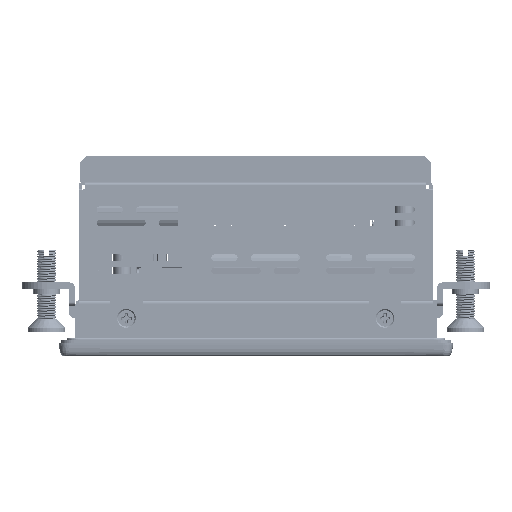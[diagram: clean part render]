
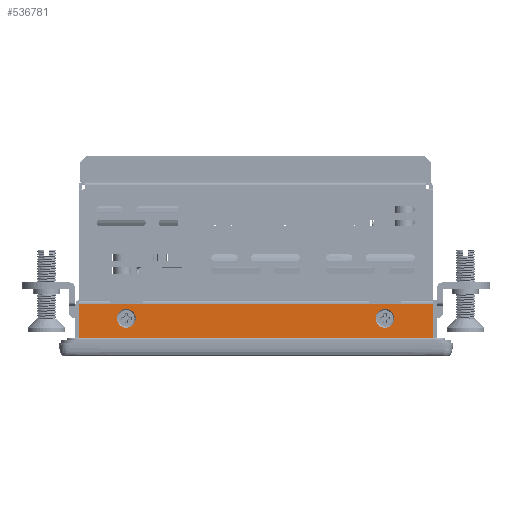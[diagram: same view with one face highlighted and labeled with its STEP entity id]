
A CAD part, left-side view. The second image highlights one B-rep face of the part: STEP entity #536781.
In plain terms, the highlighted planar face has unit normal (-1, 0, 0).
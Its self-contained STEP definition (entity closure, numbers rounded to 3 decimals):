
#158535=DIRECTION('',(0.,0.,-1.));
#158536=VECTOR('',#158535,0.2);
#158537=CARTESIAN_POINT('',(-91.,-44.3,15.5));
#158538=LINE('',#158537,#158536);
#162920=DIRECTION('',(0.,1.,0.));
#162921=VECTOR('',#162920,107.98);
#162922=CARTESIAN_POINT('',(-91.,-53.99,4.5));
#162923=LINE('',#162922,#162921);
#163066=DIRECTION('',(0.,0.,1.));
#163067=VECTOR('',#163066,0.2);
#163068=CARTESIAN_POINT('',(-91.,44.5,15.3));
#163069=LINE('',#163068,#163067);
#163111=DIRECTION('',(0.,-1.,0.));
#163112=VECTOR('',#163111,10.);
#163113=CARTESIAN_POINT('',(-91.,44.5,15.3));
#163114=LINE('',#163113,#163112);
#163123=CARTESIAN_POINT('',(-91.,39.5,11.));
#163124=DIRECTION('',(1.,0.,0.));
#163125=DIRECTION('',(0.,-1.,0.));
#163126=AXIS2_PLACEMENT_3D('',#163123,#163124,#163125);
#163128=CARTESIAN_POINT('',(-91.,39.5,11.));
#163129=DIRECTION('',(1.,0.,0.));
#163130=DIRECTION('',(0.,1.,0.));
#163131=AXIS2_PLACEMENT_3D('',#163128,#163129,#163130);
#163133=CARTESIAN_POINT('',(-91.,-39.3,11.));
#163134=DIRECTION('',(1.,0.,0.));
#163135=DIRECTION('',(0.,-1.,0.));
#163136=AXIS2_PLACEMENT_3D('',#163133,#163134,#163135);
#163138=CARTESIAN_POINT('',(-91.,-39.3,11.));
#163139=DIRECTION('',(1.,0.,0.));
#163140=DIRECTION('',(0.,1.,0.));
#163141=AXIS2_PLACEMENT_3D('',#163138,#163139,#163140);
#163143=DIRECTION('',(0.,0.,-1.));
#163144=VECTOR('',#163143,11.);
#163145=CARTESIAN_POINT('',(-91.,53.99,15.5));
#163146=LINE('',#163145,#163144);
#163147=DIRECTION('',(0.,0.,-1.));
#163148=VECTOR('',#163147,0.2);
#163149=CARTESIAN_POINT('',(-91.,34.5,15.5));
#163150=LINE('',#163149,#163148);
#163151=DIRECTION('',(0.,0.,1.));
#163152=VECTOR('',#163151,0.2);
#163153=CARTESIAN_POINT('',(-91.,-34.3,15.3));
#163154=LINE('',#163153,#163152);
#163207=DIRECTION('',(0.,-1.,0.));
#163208=VECTOR('',#163207,9.49);
#163209=CARTESIAN_POINT('',(-91.,53.99,15.5));
#163210=LINE('',#163209,#163208);
#163219=DIRECTION('',(0.,-1.,0.));
#163220=VECTOR('',#163219,68.8);
#163221=CARTESIAN_POINT('',(-91.,34.5,15.5));
#163222=LINE('',#163221,#163220);
#163256=DIRECTION('',(0.,-1.,0.));
#163257=VECTOR('',#163256,10.);
#163258=CARTESIAN_POINT('',(-91.,-34.3,15.3));
#163259=LINE('',#163258,#163257);
#163272=DIRECTION('',(0.,-1.,0.));
#163273=VECTOR('',#163272,9.69);
#163274=CARTESIAN_POINT('',(-91.,-44.3,15.5));
#163275=LINE('',#163274,#163273);
#163276=DIRECTION('',(0.,0.,1.));
#163277=VECTOR('',#163276,11.);
#163278=CARTESIAN_POINT('',(-91.,-53.99,4.5));
#163279=LINE('',#163278,#163277);
#215847=CARTESIAN_POINT('',(-91.,53.99,15.5));
#215849=VERTEX_POINT('',#215847);
#215857=CARTESIAN_POINT('',(-91.,34.5,15.5));
#215859=VERTEX_POINT('',#215857);
#215862=CARTESIAN_POINT('',(-91.,-34.3,15.5));
#215863=VERTEX_POINT('',#215862);
#215864=CARTESIAN_POINT('',(-91.,44.5,15.5));
#215866=VERTEX_POINT('',#215864);
#215869=CARTESIAN_POINT('',(-91.,-44.3,15.5));
#215871=VERTEX_POINT('',#215869);
#215874=CARTESIAN_POINT('',(-91.,-53.99,15.5));
#215875=VERTEX_POINT('',#215874);
#215882=CARTESIAN_POINT('',(-91.,34.5,15.3));
#215883=VERTEX_POINT('',#215882);
#216192=CARTESIAN_POINT('',(-91.,-34.3,15.3));
#216193=VERTEX_POINT('',#216192);
#216212=CARTESIAN_POINT('',(-91.,42.35,11.));
#216213=CARTESIAN_POINT('',(-91.,36.65,11.));
#216214=VERTEX_POINT('',#216212);
#216215=VERTEX_POINT('',#216213);
#216216=CARTESIAN_POINT('',(-91.,-44.3,15.3));
#216217=VERTEX_POINT('',#216216);
#216218=CARTESIAN_POINT('',(-91.,44.5,15.3));
#216219=VERTEX_POINT('',#216218);
#216220=CARTESIAN_POINT('',(-91.,-42.15,11.));
#216221=CARTESIAN_POINT('',(-91.,-36.45,11.));
#216222=VERTEX_POINT('',#216220);
#216223=VERTEX_POINT('',#216221);
#265678=CARTESIAN_POINT('',(-91.,-53.99,4.5));
#265679=CARTESIAN_POINT('',(-91.,53.99,4.5));
#265680=VERTEX_POINT('',#265678);
#265681=VERTEX_POINT('',#265679);
#536744=CARTESIAN_POINT('',(-91.,0.,9.5));
#536745=DIRECTION('',(1.,0.,0.));
#536746=DIRECTION('',(0.,1.,0.));
#536747=AXIS2_PLACEMENT_3D('',#536744,#536745,#536746);
#536748=PLANE('',#536747);
#536749=ORIENTED_EDGE('',*,*,#536362,.T.);
#536750=ORIENTED_EDGE('',*,*,#536430,.F.);
#536752=ORIENTED_EDGE('',*,*,#536751,.T.);
#536753=ORIENTED_EDGE('',*,*,#536650,.F.);
#536754=ORIENTED_EDGE('',*,*,#536729,.T.);
#536755=ORIENTED_EDGE('',*,*,#536497,.F.);
#536757=ORIENTED_EDGE('',*,*,#536756,.T.);
#536759=ORIENTED_EDGE('',*,*,#536758,.F.);
#536761=ORIENTED_EDGE('',*,*,#536760,.T.);
#536762=ORIENTED_EDGE('',*,*,#528216,.F.);
#536764=ORIENTED_EDGE('',*,*,#536763,.T.);
#536766=ORIENTED_EDGE('',*,*,#536765,.F.);
#536767=EDGE_LOOP('',(#536749,#536750,#536752,#536753,#536754,#536755,#536757,
#536759,#536761,#536762,#536764,#536766));
#536768=FACE_OUTER_BOUND('',#536767,.F.);
#536770=ORIENTED_EDGE('',*,*,#536769,.F.);
#536772=ORIENTED_EDGE('',*,*,#536771,.F.);
#536773=EDGE_LOOP('',(#536770,#536772));
#536774=FACE_BOUND('',#536773,.F.);
#536776=ORIENTED_EDGE('',*,*,#536775,.F.);
#536778=ORIENTED_EDGE('',*,*,#536777,.F.);
#536779=EDGE_LOOP('',(#536776,#536778));
#536780=FACE_BOUND('',#536779,.F.);
#536781=ADVANCED_FACE('',(#536768,#536774,#536780),#536748,.F.);
#163127=CIRCLE('',#163126,2.85);
#163132=CIRCLE('',#163131,2.85);
#163137=CIRCLE('',#163136,2.85);
#163142=CIRCLE('',#163141,2.85);
#528216=EDGE_CURVE('',#215871,#216217,#158538,.T.);
#536362=EDGE_CURVE('',#265680,#265681,#162923,.T.);
#536430=EDGE_CURVE('',#215849,#265681,#163146,.T.);
#536497=EDGE_CURVE('',#215859,#215883,#163150,.T.);
#536650=EDGE_CURVE('',#216219,#215866,#163069,.T.);
#536729=EDGE_CURVE('',#216219,#215883,#163114,.T.);
#536751=EDGE_CURVE('',#215849,#215866,#163210,.T.);
#536756=EDGE_CURVE('',#215859,#215863,#163222,.T.);
#536758=EDGE_CURVE('',#216193,#215863,#163154,.T.);
#536760=EDGE_CURVE('',#216193,#216217,#163259,.T.);
#536763=EDGE_CURVE('',#215871,#215875,#163275,.T.);
#536765=EDGE_CURVE('',#265680,#215875,#163279,.T.);
#536769=EDGE_CURVE('',#216222,#216223,#163137,.T.);
#536771=EDGE_CURVE('',#216223,#216222,#163142,.T.);
#536775=EDGE_CURVE('',#216215,#216214,#163127,.T.);
#536777=EDGE_CURVE('',#216214,#216215,#163132,.T.);
